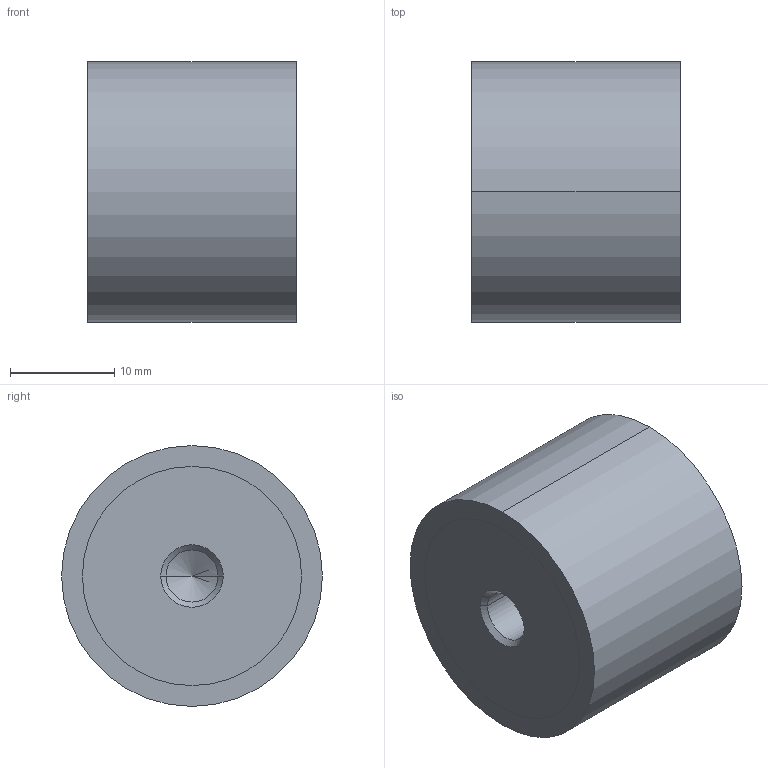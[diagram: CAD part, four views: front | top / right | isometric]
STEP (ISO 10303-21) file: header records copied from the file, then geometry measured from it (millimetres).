
FILE_DESCRIPTION (( 'STEP AP214' ), '1' );
FILE_NAME ('351-25-20-M6-EE-70.step', '2025-07-23T09:39:52', ( '' ), ( '' ), 'SwSTEP 2.0', 'SolidWorks 2022', '' );
FILE_SCHEMA (( 'AUTOMOTIVE_DESIGN' ));
Length unit declared in the file: millimetre
Products named in the file (1): 351-25-20-M6-EE-70
Bounding box: 20 x 25 x 25 mm (x, y, z)
Volume: 9513.9 mm3; surface area: 2770.7 mm2
Topology: 1 solids, 1 shells, 28 faces, 58 edges, 34 vertices
Faces by surface type: cylinder 14, cone 8, plane 6
Entity records: 844 total; most frequent: DIRECTION 144, CARTESIAN_POINT 117, ORIENTED_EDGE 108, AXIS2_PLACEMENT_3D 61, EDGE_CURVE 54, VERTEX_POINT 34, EDGE_LOOP 34, CIRCLE 32
